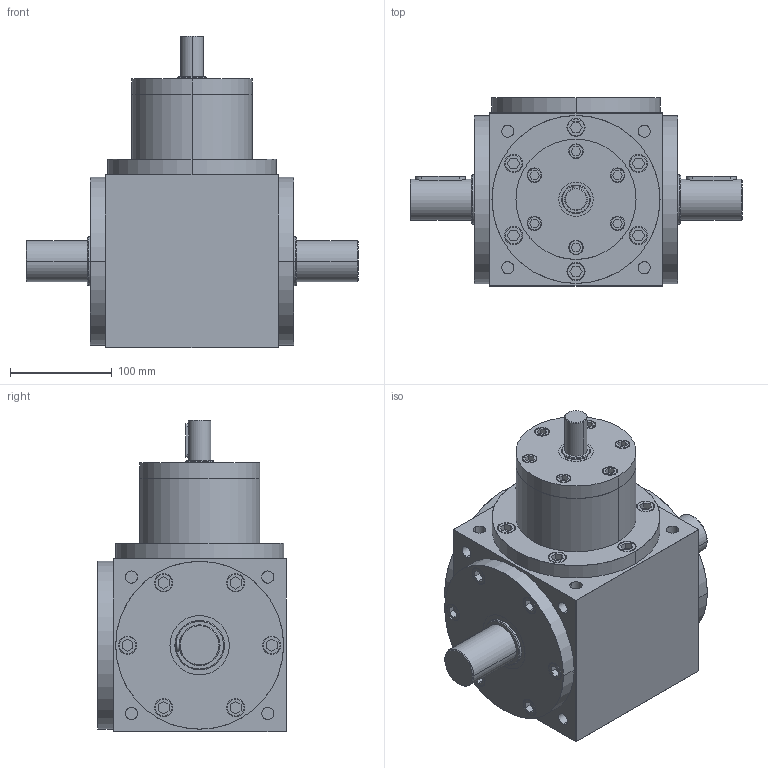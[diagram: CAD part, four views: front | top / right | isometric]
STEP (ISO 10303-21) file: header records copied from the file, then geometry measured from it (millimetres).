
FILE_DESCRIPTION (( 'STEP AP203' ), '1' );
FILE_NAME ('VSAF17-1：1.5-E.step', '2018-06-14T22:58:55', ( 'Windows 用户' ), ( '' ), 'SwSTEP 2.0', 'SolidWorks 2016', '' );
FILE_SCHEMA (( 'CONFIG_CONTROL_DESIGN' ));
Length unit declared in the file: millimetre
Products named in the file (1): VSAF17-1：1.5-E
Bounding box: 326 x 185 x 306 mm (x, y, z)
Volume: 7183916.8 mm3; surface area: 310722 mm2
Topology: 3 solids, 3 shells, 694 faces, 1547 edges, 953 vertices
Faces by surface type: plane 325, cylinder 281, torus 68, cone 12, sphere 8
Entity records: 19385 total; most frequent: CARTESIAN_POINT 3795, DIRECTION 3394, ORIENTED_EDGE 3078, EDGE_CURVE 1539, AXIS2_PLACEMENT_3D 1296, VERTEX_POINT 953, EDGE_LOOP 820, LINE 802
